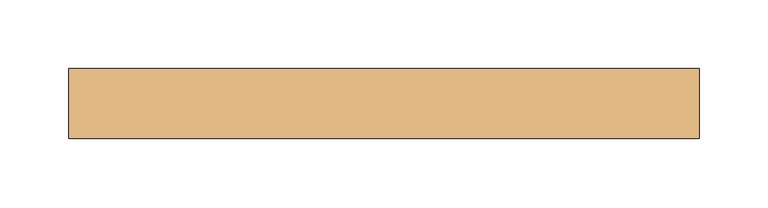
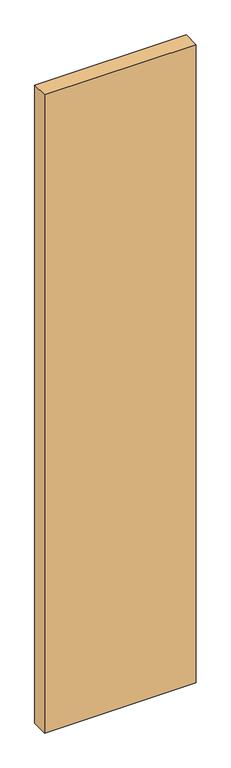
"""IFC4 building model written with IfcOpenShell, lengths in millimetres: door geometry, Planitar - Swap_Flush Panel : Planitar - Swap_Flush Panel."""

from ifc_helpers import new_model, si_unit, origin, origin_with_axes, place, context, project, spatial, polyline, outline, extrude, source, transform, mapped, element, save


def door_f25b7232(model_context):
    return source(origin(), model_context, "Body", "SweptSolid", [
        extrude(outline(polyline([(228.6, 25.4), (228.6, -25.4), (-228.6, -25.4), (-228.6, 25.4), (228.6, 25.4)])), origin_with_axes(), (0.0, 0.0, 1.0), 2032.0),
    ])


if __name__ == "__main__":
    model = new_model("IFC4")
    model_context = context("Model", 3, world=origin())
    ifc_project = project(units=[si_unit("LENGTHUNIT", "METRE", prefix="MILLI")], contexts=[model_context])
    site = spatial("IfcSite", under=ifc_project)
    building = spatial("IfcBuilding", under=site)
    placement = place(None, origin())
    door_shape = door_f25b7232(model_context)
    element("IfcDoor", 1, ObjectType="Planitar - Swap_Flush Panel : Planitar - Swap_Flush Panel", at=placement, inside=building, context=model_context, shape_type="MappedRepresentation", body=[
        mapped(door_shape, transform((0.0, 0.0, 0.0), x_axis=(1.0, 0.0, 0.0), y_axis=(0.0, 1.0, 0.0), z_axis=(0.0, 0.0, 1.0))),
    ])
    save(model, "model.ifc")
